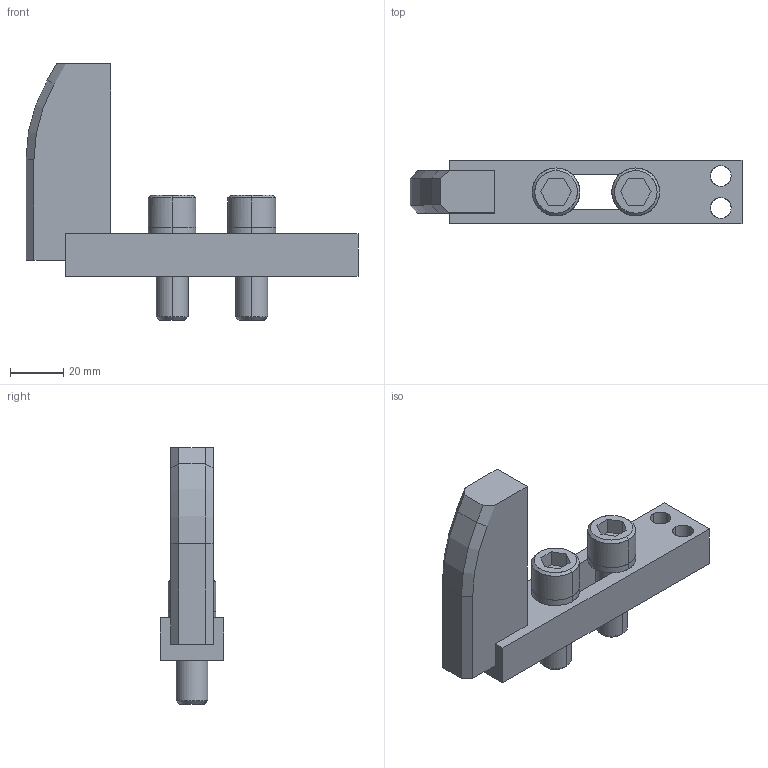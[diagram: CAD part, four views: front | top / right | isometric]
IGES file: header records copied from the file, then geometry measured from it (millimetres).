
Global section: file name: E:\UnigraphicsGraphicData\MISUMI_PRESS-PARTS\IGES\3d_ngnx-80-20-a110-b40-m12_01562_r00.igs; native system: NX V5.0; preprocessor: UGS NX IGES V5.0; author: MISUMI; date: 20110105.162106; units: millimetre
Bounding box: 125 x 24 x 96.5 mm (x, y, z)
Surface area: 25320.6 mm2 (no closed solid volume)
Topology: 0 solids, 0 shells, 100 faces, 630 edges, 630 vertices
Faces by surface type: bspline 100
